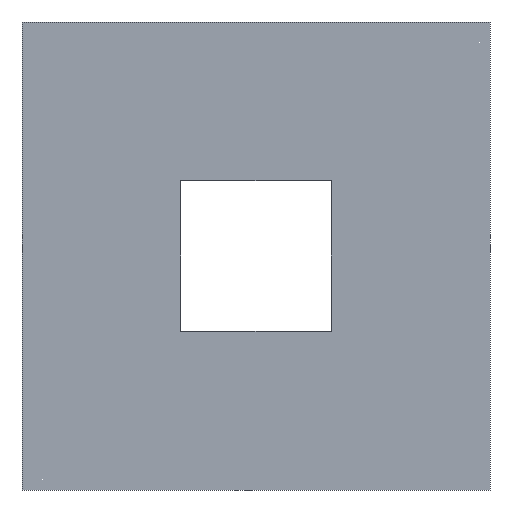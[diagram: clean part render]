
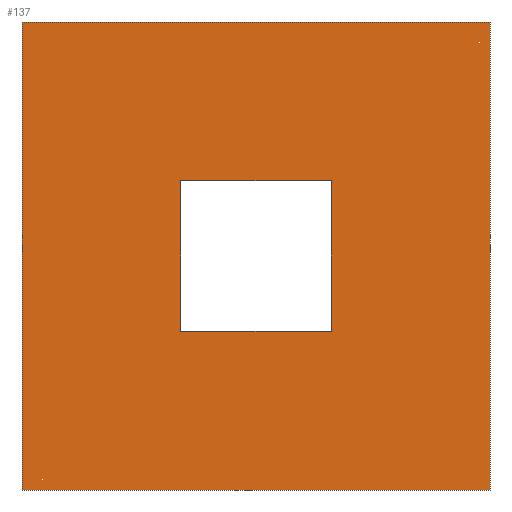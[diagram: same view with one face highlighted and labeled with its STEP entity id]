
A CAD part, front view. The second image highlights one B-rep face of the part: STEP entity #137.
In plain terms, the highlighted planar face has unit normal (0, -1, 0).
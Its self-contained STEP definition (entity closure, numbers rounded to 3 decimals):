
#21 = EDGE_CURVE('',#22,#24,#26,.T.);
#22 = VERTEX_POINT('',#23);
#23 = CARTESIAN_POINT('',(-490.,200.,20.));
#24 = VERTEX_POINT('',#25);
#25 = CARTESIAN_POINT('',(-490.,200.,206.));
#26 = SURFACE_CURVE('',#27,(#31,#43),.PCURVE_S1.);
#27 = LINE('',#28,#29);
#28 = CARTESIAN_POINT('',(-490.,200.,20.));
#29 = VECTOR('',#30,1.);
#30 = DIRECTION('',(0.,0.,1.));
#31 = PCURVE('',#32,#37);
#32 = PLANE('',#33);
#33 = AXIS2_PLACEMENT_3D('',#34,#35,#36);
#34 = CARTESIAN_POINT('',(-490.,200.,20.));
#35 = DIRECTION('',(1.,0.,0.));
#36 = DIRECTION('',(0.,0.,1.));
#37 = DEFINITIONAL_REPRESENTATION('',(#38),#42);
#38 = LINE('',#39,#40);
#39 = CARTESIAN_POINT('',(0.,0.));
#40 = VECTOR('',#41,1.);
#41 = DIRECTION('',(1.,0.));
#42 = ( GEOMETRIC_REPRESENTATION_CONTEXT(2) 
PARAMETRIC_REPRESENTATION_CONTEXT() REPRESENTATION_CONTEXT('2D SPACE',''
  ) );
#43 = PCURVE('',#44,#49);
#44 = PLANE('',#45);
#45 = AXIS2_PLACEMENT_3D('',#46,#47,#48);
#46 = CARTESIAN_POINT('',(-490.,200.,20.));
#47 = DIRECTION('',(0.,1.,0.));
#48 = DIRECTION('',(0.,0.,1.));
#49 = DEFINITIONAL_REPRESENTATION('',(#50),#54);
#50 = LINE('',#51,#52);
#51 = CARTESIAN_POINT('',(0.,0.));
#52 = VECTOR('',#53,1.);
#53 = DIRECTION('',(1.,0.));
#54 = ( GEOMETRIC_REPRESENTATION_CONTEXT(2) 
PARAMETRIC_REPRESENTATION_CONTEXT() REPRESENTATION_CONTEXT('2D SPACE',''
  ) );
#72 = PLANE('',#73);
#73 = AXIS2_PLACEMENT_3D('',#74,#75,#76);
#74 = CARTESIAN_POINT('',(-490.,200.,20.));
#75 = DIRECTION('',(0.,0.,1.));
#76 = DIRECTION('',(1.,0.,0.));
#126 = PLANE('',#127);
#127 = AXIS2_PLACEMENT_3D('',#128,#129,#130);
#128 = CARTESIAN_POINT('',(-490.,200.,206.));
#129 = DIRECTION('',(0.,0.,1.));
#130 = DIRECTION('',(1.,0.,0.));
#137 = ADVANCED_FACE('',(#138,#213),#44,.F.);
#138 = FACE_BOUND('',#139,.F.);
#139 = EDGE_LOOP('',(#140,#163,#164,#187));
#140 = ORIENTED_EDGE('',*,*,#141,.F.);
#141 = EDGE_CURVE('',#22,#142,#144,.T.);
#142 = VERTEX_POINT('',#143);
#143 = CARTESIAN_POINT('',(-304.,200.,20.));
#144 = SURFACE_CURVE('',#145,(#149,#156),.PCURVE_S1.);
#145 = LINE('',#146,#147);
#146 = CARTESIAN_POINT('',(-490.,200.,20.));
#147 = VECTOR('',#148,1.);
#148 = DIRECTION('',(1.,0.,0.));
#149 = PCURVE('',#44,#150);
#150 = DEFINITIONAL_REPRESENTATION('',(#151),#155);
#151 = LINE('',#152,#153);
#152 = CARTESIAN_POINT('',(0.,0.));
#153 = VECTOR('',#154,1.);
#154 = DIRECTION('',(0.,1.));
#155 = ( GEOMETRIC_REPRESENTATION_CONTEXT(2) 
PARAMETRIC_REPRESENTATION_CONTEXT() REPRESENTATION_CONTEXT('2D SPACE',''
  ) );
#156 = PCURVE('',#72,#157);
#157 = DEFINITIONAL_REPRESENTATION('',(#158),#162);
#158 = LINE('',#159,#160);
#159 = CARTESIAN_POINT('',(0.,0.));
#160 = VECTOR('',#161,1.);
#161 = DIRECTION('',(1.,0.));
#162 = ( GEOMETRIC_REPRESENTATION_CONTEXT(2) 
PARAMETRIC_REPRESENTATION_CONTEXT() REPRESENTATION_CONTEXT('2D SPACE',''
  ) );
#163 = ORIENTED_EDGE('',*,*,#21,.T.);
#164 = ORIENTED_EDGE('',*,*,#165,.T.);
#165 = EDGE_CURVE('',#24,#166,#168,.T.);
#166 = VERTEX_POINT('',#167);
#167 = CARTESIAN_POINT('',(-304.,200.,206.));
#168 = SURFACE_CURVE('',#169,(#173,#180),.PCURVE_S1.);
#169 = LINE('',#170,#171);
#170 = CARTESIAN_POINT('',(-490.,200.,206.));
#171 = VECTOR('',#172,1.);
#172 = DIRECTION('',(1.,0.,0.));
#173 = PCURVE('',#44,#174);
#174 = DEFINITIONAL_REPRESENTATION('',(#175),#179);
#175 = LINE('',#176,#177);
#176 = CARTESIAN_POINT('',(186.,0.));
#177 = VECTOR('',#178,1.);
#178 = DIRECTION('',(0.,1.));
#179 = ( GEOMETRIC_REPRESENTATION_CONTEXT(2) 
PARAMETRIC_REPRESENTATION_CONTEXT() REPRESENTATION_CONTEXT('2D SPACE',''
  ) );
#180 = PCURVE('',#126,#181);
#181 = DEFINITIONAL_REPRESENTATION('',(#182),#186);
#182 = LINE('',#183,#184);
#183 = CARTESIAN_POINT('',(0.,0.));
#184 = VECTOR('',#185,1.);
#185 = DIRECTION('',(1.,0.));
#186 = ( GEOMETRIC_REPRESENTATION_CONTEXT(2) 
PARAMETRIC_REPRESENTATION_CONTEXT() REPRESENTATION_CONTEXT('2D SPACE',''
  ) );
#187 = ORIENTED_EDGE('',*,*,#188,.F.);
#188 = EDGE_CURVE('',#142,#166,#189,.T.);
#189 = SURFACE_CURVE('',#190,(#194,#201),.PCURVE_S1.);
#190 = LINE('',#191,#192);
#191 = CARTESIAN_POINT('',(-304.,200.,20.));
#192 = VECTOR('',#193,1.);
#193 = DIRECTION('',(0.,0.,1.));
#194 = PCURVE('',#44,#195);
#195 = DEFINITIONAL_REPRESENTATION('',(#196),#200);
#196 = LINE('',#197,#198);
#197 = CARTESIAN_POINT('',(0.,186.));
#198 = VECTOR('',#199,1.);
#199 = DIRECTION('',(1.,0.));
#200 = ( GEOMETRIC_REPRESENTATION_CONTEXT(2) 
PARAMETRIC_REPRESENTATION_CONTEXT() REPRESENTATION_CONTEXT('2D SPACE',''
  ) );
#201 = PCURVE('',#202,#207);
#202 = PLANE('',#203);
#203 = AXIS2_PLACEMENT_3D('',#204,#205,#206);
#204 = CARTESIAN_POINT('',(-304.,200.,20.));
#205 = DIRECTION('',(1.,0.,0.));
#206 = DIRECTION('',(0.,0.,1.));
#207 = DEFINITIONAL_REPRESENTATION('',(#208),#212);
#208 = LINE('',#209,#210);
#209 = CARTESIAN_POINT('',(0.,0.));
#210 = VECTOR('',#211,1.);
#211 = DIRECTION('',(1.,0.));
#212 = ( GEOMETRIC_REPRESENTATION_CONTEXT(2) 
PARAMETRIC_REPRESENTATION_CONTEXT() REPRESENTATION_CONTEXT('2D SPACE',''
  ) );
#213 = FACE_BOUND('',#214,.F.);
#214 = EDGE_LOOP('',(#215,#243,#269,#295));
#215 = ORIENTED_EDGE('',*,*,#216,.F.);
#216 = EDGE_CURVE('',#217,#219,#221,.T.);
#217 = VERTEX_POINT('',#218);
#218 = CARTESIAN_POINT('',(-427.,200.,143.));
#219 = VERTEX_POINT('',#220);
#220 = CARTESIAN_POINT('',(-367.,200.,143.));
#221 = SURFACE_CURVE('',#222,(#226,#232),.PCURVE_S1.);
#222 = LINE('',#223,#224);
#223 = CARTESIAN_POINT('',(-458.5,200.,143.));
#224 = VECTOR('',#225,1.);
#225 = DIRECTION('',(1.,0.,0.));
#226 = PCURVE('',#44,#227);
#227 = DEFINITIONAL_REPRESENTATION('',(#228),#231);
#228 = B_SPLINE_CURVE_WITH_KNOTS('',1,(#229,#230),.UNSPECIFIED.,.F.,.F.,
  (2,2),(31.5,91.5),.PIECEWISE_BEZIER_KNOTS.);
#229 = CARTESIAN_POINT('',(123.,63.));
#230 = CARTESIAN_POINT('',(123.,123.));
#231 = ( GEOMETRIC_REPRESENTATION_CONTEXT(2) 
PARAMETRIC_REPRESENTATION_CONTEXT() REPRESENTATION_CONTEXT('2D SPACE',''
  ) );
#232 = PCURVE('',#233,#238);
#233 = PLANE('',#234);
#234 = AXIS2_PLACEMENT_3D('',#235,#236,#237);
#235 = CARTESIAN_POINT('',(-427.,199.,143.));
#236 = DIRECTION('',(0.,0.,1.));
#237 = DIRECTION('',(1.,0.,0.));
#238 = DEFINITIONAL_REPRESENTATION('',(#239),#242);
#239 = B_SPLINE_CURVE_WITH_KNOTS('',1,(#240,#241),.UNSPECIFIED.,.F.,.F.,
  (2,2),(31.5,91.5),.PIECEWISE_BEZIER_KNOTS.);
#240 = CARTESIAN_POINT('',(0.,1.));
#241 = CARTESIAN_POINT('',(60.,1.));
#242 = ( GEOMETRIC_REPRESENTATION_CONTEXT(2) 
PARAMETRIC_REPRESENTATION_CONTEXT() REPRESENTATION_CONTEXT('2D SPACE',''
  ) );
#243 = ORIENTED_EDGE('',*,*,#244,.T.);
#244 = EDGE_CURVE('',#217,#245,#247,.T.);
#245 = VERTEX_POINT('',#246);
#246 = CARTESIAN_POINT('',(-427.,200.,83.));
#247 = SURFACE_CURVE('',#248,(#252,#258),.PCURVE_S1.);
#248 = LINE('',#249,#250);
#249 = CARTESIAN_POINT('',(-427.,200.,51.5));
#250 = VECTOR('',#251,1.);
#251 = DIRECTION('',(0.,0.,-1.));
#252 = PCURVE('',#44,#253);
#253 = DEFINITIONAL_REPRESENTATION('',(#254),#257);
#254 = B_SPLINE_CURVE_WITH_KNOTS('',1,(#255,#256),.UNSPECIFIED.,.F.,.F.,
  (2,2),(-91.5,-31.5),.PIECEWISE_BEZIER_KNOTS.);
#255 = CARTESIAN_POINT('',(123.,63.));
#256 = CARTESIAN_POINT('',(63.,63.));
#257 = ( GEOMETRIC_REPRESENTATION_CONTEXT(2) 
PARAMETRIC_REPRESENTATION_CONTEXT() REPRESENTATION_CONTEXT('2D SPACE',''
  ) );
#258 = PCURVE('',#259,#264);
#259 = PLANE('',#260);
#260 = AXIS2_PLACEMENT_3D('',#261,#262,#263);
#261 = CARTESIAN_POINT('',(-427.,199.,83.));
#262 = DIRECTION('',(1.,0.,0.));
#263 = DIRECTION('',(0.,0.,1.));
#264 = DEFINITIONAL_REPRESENTATION('',(#265),#268);
#265 = B_SPLINE_CURVE_WITH_KNOTS('',1,(#266,#267),.UNSPECIFIED.,.F.,.F.,
  (2,2),(-91.5,-31.5),.PIECEWISE_BEZIER_KNOTS.);
#266 = CARTESIAN_POINT('',(60.,-1.));
#267 = CARTESIAN_POINT('',(0.,-1.));
#268 = ( GEOMETRIC_REPRESENTATION_CONTEXT(2) 
PARAMETRIC_REPRESENTATION_CONTEXT() REPRESENTATION_CONTEXT('2D SPACE',''
  ) );
#269 = ORIENTED_EDGE('',*,*,#270,.T.);
#270 = EDGE_CURVE('',#245,#271,#273,.T.);
#271 = VERTEX_POINT('',#272);
#272 = CARTESIAN_POINT('',(-367.,200.,83.));
#273 = SURFACE_CURVE('',#274,(#278,#284),.PCURVE_S1.);
#274 = LINE('',#275,#276);
#275 = CARTESIAN_POINT('',(-458.5,200.,83.));
#276 = VECTOR('',#277,1.);
#277 = DIRECTION('',(1.,0.,0.));
#278 = PCURVE('',#44,#279);
#279 = DEFINITIONAL_REPRESENTATION('',(#280),#283);
#280 = B_SPLINE_CURVE_WITH_KNOTS('',1,(#281,#282),.UNSPECIFIED.,.F.,.F.,
  (2,2),(31.5,91.5),.PIECEWISE_BEZIER_KNOTS.);
#281 = CARTESIAN_POINT('',(63.,63.));
#282 = CARTESIAN_POINT('',(63.,123.));
#283 = ( GEOMETRIC_REPRESENTATION_CONTEXT(2) 
PARAMETRIC_REPRESENTATION_CONTEXT() REPRESENTATION_CONTEXT('2D SPACE',''
  ) );
#284 = PCURVE('',#285,#290);
#285 = PLANE('',#286);
#286 = AXIS2_PLACEMENT_3D('',#287,#288,#289);
#287 = CARTESIAN_POINT('',(-427.,199.,83.));
#288 = DIRECTION('',(0.,0.,1.));
#289 = DIRECTION('',(1.,0.,0.));
#290 = DEFINITIONAL_REPRESENTATION('',(#291),#294);
#291 = B_SPLINE_CURVE_WITH_KNOTS('',1,(#292,#293),.UNSPECIFIED.,.F.,.F.,
  (2,2),(31.5,91.5),.PIECEWISE_BEZIER_KNOTS.);
#292 = CARTESIAN_POINT('',(0.,1.));
#293 = CARTESIAN_POINT('',(60.,1.));
#294 = ( GEOMETRIC_REPRESENTATION_CONTEXT(2) 
PARAMETRIC_REPRESENTATION_CONTEXT() REPRESENTATION_CONTEXT('2D SPACE',''
  ) );
#295 = ORIENTED_EDGE('',*,*,#296,.F.);
#296 = EDGE_CURVE('',#219,#271,#297,.T.);
#297 = SURFACE_CURVE('',#298,(#302,#308),.PCURVE_S1.);
#298 = LINE('',#299,#300);
#299 = CARTESIAN_POINT('',(-367.,200.,51.5));
#300 = VECTOR('',#301,1.);
#301 = DIRECTION('',(0.,0.,-1.));
#302 = PCURVE('',#44,#303);
#303 = DEFINITIONAL_REPRESENTATION('',(#304),#307);
#304 = B_SPLINE_CURVE_WITH_KNOTS('',1,(#305,#306),.UNSPECIFIED.,.F.,.F.,
  (2,2),(-91.5,-31.5),.PIECEWISE_BEZIER_KNOTS.);
#305 = CARTESIAN_POINT('',(123.,123.));
#306 = CARTESIAN_POINT('',(63.,123.));
#307 = ( GEOMETRIC_REPRESENTATION_CONTEXT(2) 
PARAMETRIC_REPRESENTATION_CONTEXT() REPRESENTATION_CONTEXT('2D SPACE',''
  ) );
#308 = PCURVE('',#309,#314);
#309 = PLANE('',#310);
#310 = AXIS2_PLACEMENT_3D('',#311,#312,#313);
#311 = CARTESIAN_POINT('',(-367.,199.,83.));
#312 = DIRECTION('',(1.,0.,0.));
#313 = DIRECTION('',(0.,0.,1.));
#314 = DEFINITIONAL_REPRESENTATION('',(#315),#318);
#315 = B_SPLINE_CURVE_WITH_KNOTS('',1,(#316,#317),.UNSPECIFIED.,.F.,.F.,
  (2,2),(-91.5,-31.5),.PIECEWISE_BEZIER_KNOTS.);
#316 = CARTESIAN_POINT('',(60.,-1.));
#317 = CARTESIAN_POINT('',(0.,-1.));
#318 = ( GEOMETRIC_REPRESENTATION_CONTEXT(2) 
PARAMETRIC_REPRESENTATION_CONTEXT() REPRESENTATION_CONTEXT('2D SPACE',''
  ) );
